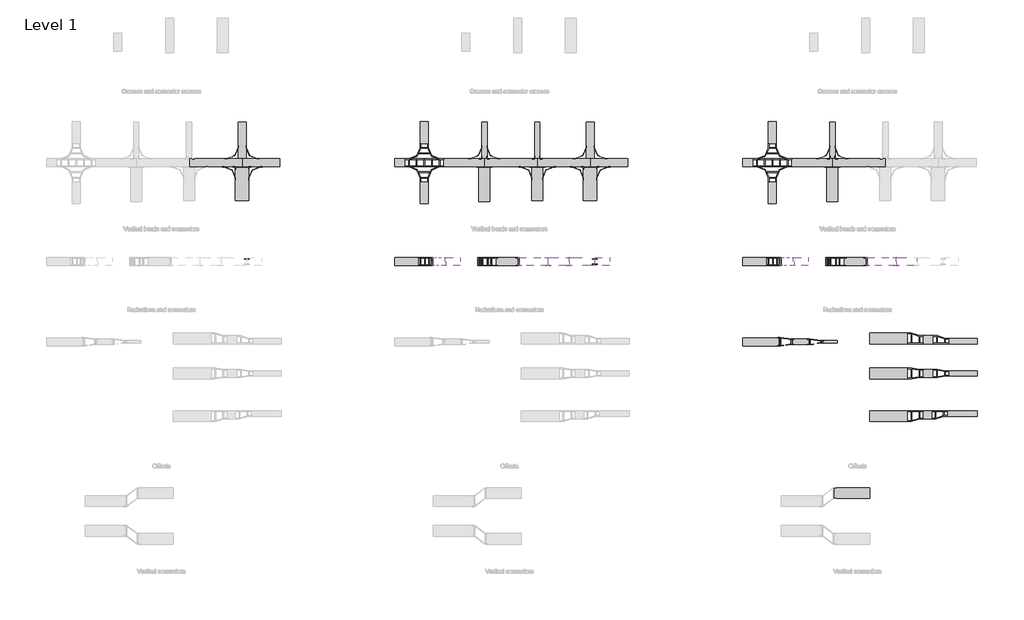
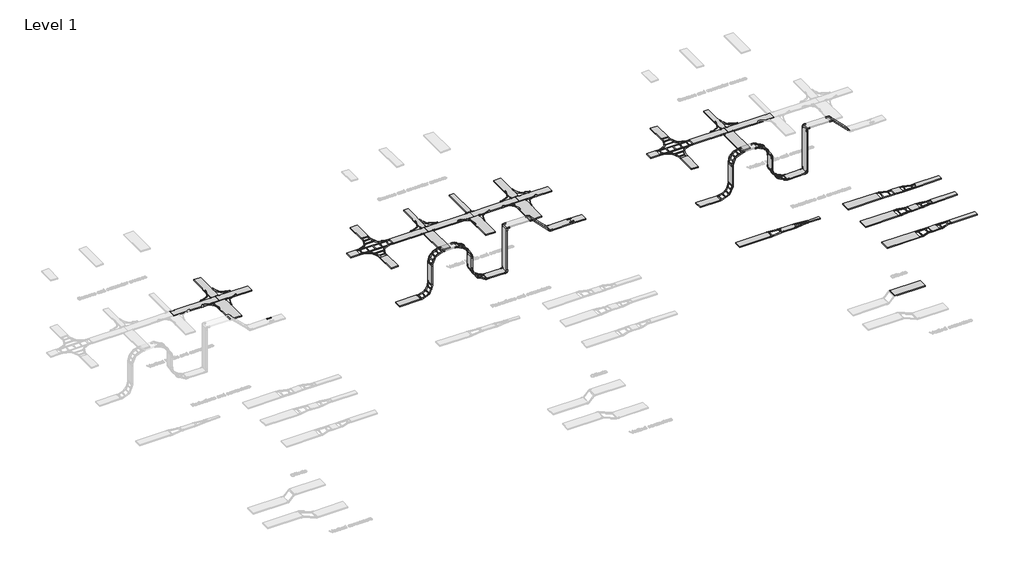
# One storey, part 10 of 106: 69 cable carrier fittings, 55 cable carrier segments.
"""IFC4 building model written with IfcOpenShell, lengths in millimetres."""

from ifc_helpers import new_model, si_unit, frame, origin, place, context, project, spatial, polyline, outline, extrude, transform, mapped, element, save
from components import cable_carrier_fitting_c78842c5, cable_carrier_fitting_c1e814a0, cable_carrier_fitting_2d894193, cable_carrier_fitting_655502a1, cable_carrier_fitting_0f11f104, cable_carrier_fitting_28cc8021, cable_carrier_fitting_3c98dc92, cable_carrier_fitting_6c66d9f1, cable_carrier_fitting_4c1293df, cable_carrier_fitting_edb32cbd, cable_carrier_fitting_a9217249, cable_carrier_fitting_c660702d, cable_carrier_fitting_92366696, cable_carrier_fitting_a2b46a04, cable_carrier_fitting_87479157, cable_carrier_fitting_b11fac2c, cable_carrier_fitting_d4fd6989, cable_carrier_fitting_33a5f9b6, cable_carrier_fitting_a79e1fa7, cable_carrier_fitting_c0237f39, cable_carrier_fitting_32c3d949, cable_carrier_fitting_d229e209, cable_carrier_fitting_202d3e5f, cable_carrier_fitting_3ee89383, cable_carrier_fitting_ec1c524e, cable_carrier_fitting_41da71e9, cable_carrier_fitting_dba92b4f, cable_carrier_fitting_45659740, cable_carrier_fitting_05152c93, cable_carrier_fitting_ca44e503

model = new_model("IFC4")

# Units and contexts
model_context = context("Model", 3, world=origin())
ifc_project = project(units=[si_unit("LENGTHUNIT", "METRE", prefix="MILLI")], contexts=[model_context])

# Site, building, storey
site = spatial("IfcSite", under=ifc_project)
building = spatial("IfcBuilding", under=site)
storey = spatial("IfcBuildingStorey", under=building, Name="Level 1", Elevation=0.0)

# Cable carrier fittings
placement = place(None, origin())
cable_carrier_fitting_shape = cable_carrier_fitting_c78842c5(model_context)
element("IfcCableCarrierFitting", 1, ObjectType="BAKS_LD_CONN_Straight connector_LDC : LDC_H45", at=placement, inside=storey, context=model_context, shape_type="MappedRepresentation", body=[
    mapped(cable_carrier_fitting_shape, transform((46084.5221787, 24506.9805429, 1239.8602102), x_axis=(1.0, 0.0, 0.0), y_axis=(0.0, 1.0, 0.0), z_axis=(0.0, 0.0, 1.0))),
])
cable_carrier_fitting_2_shape = cable_carrier_fitting_c1e814a0(model_context)
element("IfcCableCarrierFitting", 2, ObjectType="BAKS_LD_BEND_Articulated connector_LG : LGC_H45", at=placement, inside=storey, context=model_context, shape_type="MappedRepresentation", body=[
    mapped(cable_carrier_fitting_2_shape, transform((57264.3823889, 24756.9805429, 2000.0), x_axis=(1.0, 0.0, 0.0), y_axis=(0.0, 0.0, -1.0), z_axis=(0.0, 1.0, 0.0))),
])
cable_carrier_fitting_3_shape = cable_carrier_fitting_2d894193(model_context)
element("IfcCableCarrierFitting", 3, ObjectType="BAKS_LD_CONN_Angle coupler bendable_LKU : LKUP_H45", at=placement, inside=storey, context=model_context, shape_type="MappedRepresentation", body=[
    mapped(cable_carrier_fitting_3_shape, transform((32762.2849338, 28120.7686574, 32.5), x_axis=(1.0, 0.0, 0.0), y_axis=(0.0, 1.0, 0.0), z_axis=(0.0, 0.0, 1.0))),
])
element("IfcCableCarrierFitting", 4, ObjectType="BAKS_LD_CONN_Angle coupler bendable_LKU : LKUP_H45", at=placement, inside=storey, context=model_context, shape_type="MappedRepresentation", body=[
    mapped(cable_carrier_fitting_3_shape, transform((33262.2849338, 28120.7686574, 32.5), x_axis=(0.0, 1.0, 0.0), y_axis=(-1.0, 0.0, 0.0), z_axis=(0.0, 0.0, 1.0))),
])
element("IfcCableCarrierFitting", 5, ObjectType="BAKS_LD_CONN_Angle coupler bendable_LKU : LKUP_H45", at=placement, inside=storey, context=model_context, shape_type="MappedRepresentation", body=[
    mapped(cable_carrier_fitting_3_shape, transform((33162.2849338, 28420.7686574, 30.0), x_axis=(-1.0, 0.0, 0.0), y_axis=(0.0, -1.0, 0.0), z_axis=(0.0, 0.0, 1.0))),
])
element("IfcCableCarrierFitting", 6, ObjectType="BAKS_LD_CONN_Angle coupler bendable_LKU : LKUP_H45", at=placement, inside=storey, context=model_context, shape_type="MappedRepresentation", body=[
    mapped(cable_carrier_fitting_3_shape, transform((42089.2849338, 28420.7686574, 32.5), x_axis=(-1.0, 0.0, 0.0), y_axis=(0.0, -1.0, 0.0), z_axis=(0.0, 0.0, 1.0))),
])
element("IfcCableCarrierFitting", 7, ObjectType="BAKS_LD_CONN_Angle coupler bendable_LKU : LKUP_H45", at=placement, inside=storey, context=model_context, shape_type="MappedRepresentation", body=[
    mapped(cable_carrier_fitting_3_shape, transform((41889.2849338, 28420.7686574, 32.5), x_axis=(0.0, -1.0, 0.0), y_axis=(1.0, 0.0, 0.0), z_axis=(0.0, 0.0, 1.0))),
])
element("IfcCableCarrierFitting", 8, ObjectType="BAKS_LD_CONN_Angle coupler bendable_LKU : LKUP_H45", at=placement, inside=storey, context=model_context, shape_type="MappedRepresentation", body=[
    mapped(cable_carrier_fitting_3_shape, transform((41789.2849338, 28120.7686574, 30.0), x_axis=(1.0, 0.0, 0.0), y_axis=(0.0, 1.0, 0.0), z_axis=(0.0, 0.0, 1.0))),
])
element("IfcCableCarrierFitting", 9, ObjectType="BAKS_LD_CONN_Angle coupler bendable_LKU : LKUP_H45", at=placement, inside=storey, context=model_context, shape_type="MappedRepresentation", body=[
    mapped(cable_carrier_fitting_3_shape, transform((44050.9231102, 28420.7686574, 32.5), x_axis=(-1.0, 0.0, 0.0), y_axis=(0.0, -1.0, 0.0), z_axis=(0.0, 0.0, 1.0))),
])
element("IfcCableCarrierFitting", 10, ObjectType="BAKS_LD_CONN_Angle coupler bendable_LKU : LKUP_H45", at=placement, inside=storey, context=model_context, shape_type="MappedRepresentation", body=[
    mapped(cable_carrier_fitting_3_shape, transform((43850.9231102, 28420.7686574, 32.5), x_axis=(0.0, -1.0, 0.0), y_axis=(1.0, 0.0, 0.0), z_axis=(0.0, 0.0, 1.0))),
])
element("IfcCableCarrierFitting", 11, ObjectType="BAKS_LD_CONN_Angle coupler bendable_LKU : LKUP_H45", at=placement, inside=storey, context=model_context, shape_type="MappedRepresentation", body=[
    mapped(cable_carrier_fitting_3_shape, transform((43750.9231102, 28120.7686574, 30.0), x_axis=(1.0, 0.0, 0.0), y_axis=(0.0, 1.0, 0.0), z_axis=(0.0, 0.0, 1.0))),
])
element("IfcCableCarrierFitting", 12, ObjectType="BAKS_LD_CONN_Angle coupler bendable_LKU : LKUP_H45", at=placement, inside=storey, context=model_context, shape_type="MappedRepresentation", body=[
    mapped(cable_carrier_fitting_3_shape, transform((45662.2849338, 28120.7686574, 32.5), x_axis=(1.0, 0.0, 0.0), y_axis=(0.0, 1.0, 0.0), z_axis=(0.0, 0.0, 1.0))),
])
element("IfcCableCarrierFitting", 13, ObjectType="BAKS_LD_CONN_Angle coupler bendable_LKU : LKUP_H45", at=placement, inside=storey, context=model_context, shape_type="MappedRepresentation", body=[
    mapped(cable_carrier_fitting_3_shape, transform((46162.2849338, 28120.7686574, 32.5), x_axis=(0.0, 1.0, 0.0), y_axis=(-1.0, 0.0, 0.0), z_axis=(0.0, 0.0, 1.0))),
])
element("IfcCableCarrierFitting", 14, ObjectType="BAKS_LD_CONN_Angle coupler bendable_LKU : LKUP_H45", at=placement, inside=storey, context=model_context, shape_type="MappedRepresentation", body=[
    mapped(cable_carrier_fitting_3_shape, transform((46062.2849338, 28420.7686574, 30.0), x_axis=(-1.0, 0.0, 0.0), y_axis=(0.0, -1.0, 0.0), z_axis=(0.0, 0.0, 1.0))),
])
cable_carrier_fitting_4_shape = cable_carrier_fitting_655502a1(model_context)
element("IfcCableCarrierFitting", 15, ObjectType="BAKS_LD_CONN_Angle coupler bendable_LKU : LKUC_H45", at=placement, inside=storey, context=model_context, shape_type="MappedRepresentation", body=[
    mapped(cable_carrier_fitting_4_shape, transform((54989.2849338, 28420.7686574, 32.5), x_axis=(-1.0, 0.0, 0.0), y_axis=(0.0, -1.0, 0.0), z_axis=(0.0, 0.0, 1.0))),
])
element("IfcCableCarrierFitting", 16, ObjectType="BAKS_LD_CONN_Angle coupler bendable_LKU : LKUC_H45", at=placement, inside=storey, context=model_context, shape_type="MappedRepresentation", body=[
    mapped(cable_carrier_fitting_4_shape, transform((54789.2849338, 28420.7686574, 32.5), x_axis=(0.0, -1.0, 0.0), y_axis=(1.0, 0.0, 0.0), z_axis=(0.0, 0.0, 1.0))),
])
element("IfcCableCarrierFitting", 17, ObjectType="BAKS_LD_CONN_Angle coupler bendable_LKU : LKUC_H45", at=placement, inside=storey, context=model_context, shape_type="MappedRepresentation", body=[
    mapped(cable_carrier_fitting_4_shape, transform((54689.2849338, 28120.7686574, 30.0), x_axis=(1.0, 0.0, 0.0), y_axis=(0.0, 1.0, 0.0), z_axis=(0.0, 0.0, 1.0))),
])
cable_carrier_fitting_5_shape = cable_carrier_fitting_0f11f104(model_context)
element("IfcCableCarrierFitting", 18, ObjectType="BAKS_LD_CONN_Addon connector_LDDK : LDDKP", at=placement, inside=storey, context=model_context, shape_type="MappedRepresentation", body=[
    mapped(cable_carrier_fitting_5_shape, transform((32762.2849338, 28120.7686574, 55.0), x_axis=(1.0, 0.0, 0.0), y_axis=(0.0, 1.0, 0.0), z_axis=(0.0, 0.0, 1.0))),
])
element("IfcCableCarrierFitting", 19, ObjectType="BAKS_LD_CONN_Addon connector_LDDK : LDDKP", at=placement, inside=storey, context=model_context, shape_type="MappedRepresentation", body=[
    mapped(cable_carrier_fitting_5_shape, transform((33162.2849338, 28420.7686574, 55.0), x_axis=(-1.0, 0.0, 0.0), y_axis=(0.0, -1.0, 0.0), z_axis=(0.0, 0.0, 1.0))),
])
element("IfcCableCarrierFitting", 20, ObjectType="BAKS_LD_CONN_Addon connector_LDDK : LDDKP", at=placement, inside=storey, context=model_context, shape_type="MappedRepresentation", body=[
    mapped(cable_carrier_fitting_5_shape, transform((42089.2849338, 28420.7686574, 55.0), x_axis=(-1.0, 0.0, 0.0), y_axis=(0.0, -1.0, 0.0), z_axis=(0.0, 0.0, 1.0))),
])
element("IfcCableCarrierFitting", 21, ObjectType="BAKS_LD_CONN_Addon connector_LDDK : LDDKP", at=placement, inside=storey, context=model_context, shape_type="MappedRepresentation", body=[
    mapped(cable_carrier_fitting_5_shape, transform((43750.9231102, 28120.7686574, 55.0), x_axis=(1.0, 0.0, 0.0), y_axis=(0.0, 1.0, 0.0), z_axis=(0.0, 0.0, 1.0))),
])
element("IfcCableCarrierFitting", 22, ObjectType="BAKS_LD_CONN_Addon connector_LDDK : LDDKP", at=placement, inside=storey, context=model_context, shape_type="MappedRepresentation", body=[
    mapped(cable_carrier_fitting_5_shape, transform((45662.2849338, 28120.7686574, 55.0), x_axis=(1.0, 0.0, 0.0), y_axis=(0.0, 1.0, 0.0), z_axis=(0.0, 0.0, 1.0))),
])
element("IfcCableCarrierFitting", 23, ObjectType="BAKS_LD_CONN_Addon connector_LDDK : LDDKP", at=placement, inside=storey, context=model_context, shape_type="MappedRepresentation", body=[
    mapped(cable_carrier_fitting_5_shape, transform((46062.2849338, 28420.7686574, 55.0), x_axis=(-1.0, 0.0, 0.0), y_axis=(0.0, -1.0, 0.0), z_axis=(0.0, 0.0, 1.0))),
])
element("IfcCableCarrierFitting", 24, ObjectType="BAKS_LD_CONN_Addon connector_LDDK : LDDKP", at=placement, inside=storey, context=model_context, shape_type="MappedRepresentation", body=[
    mapped(cable_carrier_fitting_5_shape, transform((54989.2849338, 28420.7686574, 55.0), x_axis=(-1.0, 0.0, 0.0), y_axis=(0.0, -1.0, 0.0), z_axis=(0.0, 0.0, 1.0))),
])
cable_carrier_fitting_6_shape = cable_carrier_fitting_28cc8021(model_context)
element("IfcCableCarrierFitting", 25, ObjectType="BAKS_LD_RED_Straight reducer_RD : RD(S/L/P)C_H45", at=placement, inside=storey, context=model_context, shape_type="MappedRepresentation", body=[
    mapped(cable_carrier_fitting_6_shape, transform((57665.5222547, 20457.8476348, 55.0), x_axis=(1.0, 0.0, 0.0), y_axis=(0.0, 1.0, 0.0), z_axis=(0.0, 0.0, 1.0))),
])
cable_carrier_fitting_7_shape = cable_carrier_fitting_3c98dc92(model_context)
element("IfcCableCarrierFitting", 26, ObjectType="BAKS_LD_BEND_Vertical bend 90deg external_LPDZ : LPDZP_H45", at=placement, inside=storey, context=model_context, shape_type="MappedRepresentation", body=[
    mapped(cable_carrier_fitting_7_shape, transform((40064.3823889, 24606.9805429, 1900.0), x_axis=(0.0, 0.0, 1.0), y_axis=(1.0, 0.0, 0.0), z_axis=(0.0, 1.0, 0.0))),
])
cable_carrier_fitting_8_shape = cable_carrier_fitting_6c66d9f1(model_context)
element("IfcCableCarrierFitting", 27, ObjectType="BAKS_LD_BEND_Articulated connector_LG : LGT_H45", at=placement, inside=storey, context=model_context, shape_type="MappedRepresentation", body=[
    mapped(cable_carrier_fitting_8_shape, transform((43264.3823889, 24456.9805429, 0.0), x_axis=(1.0, 0.0, 0.0), y_axis=(0.0, 0.0, 1.0), z_axis=(0.0, -1.0, 0.0))),
])
element("IfcCableCarrierFitting", 28, ObjectType="BAKS_LD_BEND_Articulated connector_LG : LGT_H45", at=placement, inside=storey, context=model_context, shape_type="MappedRepresentation", body=[
    mapped(cable_carrier_fitting_8_shape, transform((43264.3823889, 24756.9805429, 2000.0), x_axis=(0.0, 0.0, 1.0), y_axis=(1.0, 0.0, 0.0), z_axis=(0.0, 1.0, 0.0))),
])
cable_carrier_fitting_9_shape = cable_carrier_fitting_4c1293df(model_context)
element("IfcCableCarrierFitting", 29, ObjectType="BAKS_LD_BEND_Articulated connector_LG : LGT_H45", at=placement, inside=storey, context=model_context, shape_type="MappedRepresentation", body=[
    mapped(cable_carrier_fitting_9_shape, transform((43264.3823889, 24756.9805429, 0.0), x_axis=(1.0, 0.0, 0.0), y_axis=(0.0, 0.0, -1.0), z_axis=(0.0, 1.0, 0.0))),
])
element("IfcCableCarrierFitting", 30, ObjectType="BAKS_LD_BEND_Articulated connector_LG : LGT_H45", at=placement, inside=storey, context=model_context, shape_type="MappedRepresentation", body=[
    mapped(cable_carrier_fitting_9_shape, transform((43264.3823889, 24456.9805429, 2000.0), x_axis=(0.0, 0.0, 1.0), y_axis=(-1.0, 0.0, 0.0), z_axis=(0.0, -1.0, 0.0))),
])
cable_carrier_fitting_10_shape = cable_carrier_fitting_edb32cbd(model_context)
element("IfcCableCarrierFitting", 31, ObjectType="BAKS_LD_CROSS_Horizontal cross over_CZD : CZDP_H45", at=placement, inside=storey, context=model_context, shape_type="MappedRepresentation", body=[
    mapped(cable_carrier_fitting_10_shape, transform((39764.7261828, 28270.7686574, 55.0), x_axis=(-1.0, 0.0, 0.0), y_axis=(0.0, -1.0, 0.0), z_axis=(0.0, 0.0, 1.0))),
])
cable_carrier_fitting_11_shape = cable_carrier_fitting_a9217249(model_context)
element("IfcCableCarrierFitting", 32, ObjectType="BAKS_LD_CONN_Addon connector_LDDK : LDDKP", at=placement, inside=storey, context=model_context, shape_type="MappedRepresentation", body=[
    mapped(cable_carrier_fitting_11_shape, transform((33262.2849338, 28120.7686574, 55.0), x_axis=(-1.0, 0.0, 0.0), y_axis=(0.0, -1.0, 0.0), z_axis=(0.0, 0.0, 1.0))),
])
element("IfcCableCarrierFitting", 33, ObjectType="BAKS_LD_CONN_Addon connector_LDDK : LDDKP", at=placement, inside=storey, context=model_context, shape_type="MappedRepresentation", body=[
    mapped(cable_carrier_fitting_11_shape, transform((32862.2849338, 28420.7686574, 55.0), x_axis=(1.0, 0.0, 0.0), y_axis=(0.0, 1.0, 0.0), z_axis=(0.0, 0.0, 1.0))),
])
element("IfcCableCarrierFitting", 34, ObjectType="BAKS_LD_CONN_Addon connector_LDDK : LDDKP", at=placement, inside=storey, context=model_context, shape_type="MappedRepresentation", body=[
    mapped(cable_carrier_fitting_11_shape, transform((41889.2849338, 28420.7686574, 55.0), x_axis=(1.0, 0.0, 0.0), y_axis=(0.0, 1.0, 0.0), z_axis=(0.0, 0.0, 1.0))),
])
element("IfcCableCarrierFitting", 35, ObjectType="BAKS_LD_CONN_Addon connector_LDDK : LDDKP", at=placement, inside=storey, context=model_context, shape_type="MappedRepresentation", body=[
    mapped(cable_carrier_fitting_11_shape, transform((44150.9231102, 28120.7686574, 55.0), x_axis=(-1.0, 0.0, 0.0), y_axis=(0.0, -1.0, 0.0), z_axis=(0.0, 0.0, 1.0))),
])
element("IfcCableCarrierFitting", 36, ObjectType="BAKS_LD_CONN_Addon connector_LDDK : LDDKP", at=placement, inside=storey, context=model_context, shape_type="MappedRepresentation", body=[
    mapped(cable_carrier_fitting_11_shape, transform((46162.2849338, 28120.7686574, 55.0), x_axis=(-1.0, 0.0, 0.0), y_axis=(0.0, -1.0, 0.0), z_axis=(0.0, 0.0, 1.0))),
])
element("IfcCableCarrierFitting", 37, ObjectType="BAKS_LD_CONN_Addon connector_LDDK : LDDKP", at=placement, inside=storey, context=model_context, shape_type="MappedRepresentation", body=[
    mapped(cable_carrier_fitting_11_shape, transform((45762.2849338, 28420.7686574, 55.0), x_axis=(1.0, 0.0, 0.0), y_axis=(0.0, 1.0, 0.0), z_axis=(0.0, 0.0, 1.0))),
])
element("IfcCableCarrierFitting", 38, ObjectType="BAKS_LD_CONN_Addon connector_LDDK : LDDKP", at=placement, inside=storey, context=model_context, shape_type="MappedRepresentation", body=[
    mapped(cable_carrier_fitting_11_shape, transform((54789.2849338, 28420.7686574, 55.0), x_axis=(1.0, 0.0, 0.0), y_axis=(0.0, 1.0, 0.0), z_axis=(0.0, 0.0, 1.0))),
])
cable_carrier_fitting_12_shape = cable_carrier_fitting_c660702d(model_context)
element("IfcCableCarrierFitting", 39, ObjectType="BAKS_LD_CONN_Angle coupler bendable_LKU : LKUP_H45", at=placement, inside=storey, context=model_context, shape_type="MappedRepresentation", body=[
    mapped(cable_carrier_fitting_12_shape, transform((32862.2849338, 28420.7686574, 30.0), x_axis=(1.0, 0.0, 0.0), y_axis=(0.0, 1.0, 0.0), z_axis=(0.0, 0.0, 1.0))),
])
element("IfcCableCarrierFitting", 40, ObjectType="BAKS_LD_CONN_Angle coupler bendable_LKU : LKUP_H45", at=placement, inside=storey, context=model_context, shape_type="MappedRepresentation", body=[
    mapped(cable_carrier_fitting_12_shape, transform((42189.2849338, 28120.7686574, 30.0), x_axis=(-1.0, 0.0, 0.0), y_axis=(0.0, -1.0, 0.0), z_axis=(0.0, 0.0, 1.0))),
])
element("IfcCableCarrierFitting", 41, ObjectType="BAKS_LD_CONN_Angle coupler bendable_LKU : LKUP_H45", at=placement, inside=storey, context=model_context, shape_type="MappedRepresentation", body=[
    mapped(cable_carrier_fitting_12_shape, transform((44150.9231102, 28120.7686574, 30.0), x_axis=(-1.0, 0.0, 0.0), y_axis=(0.0, -1.0, 0.0), z_axis=(0.0, 0.0, 1.0))),
])
element("IfcCableCarrierFitting", 42, ObjectType="BAKS_LD_CONN_Angle coupler bendable_LKU : LKUP_H45", at=placement, inside=storey, context=model_context, shape_type="MappedRepresentation", body=[
    mapped(cable_carrier_fitting_12_shape, transform((45762.2849338, 28420.7686574, 30.0), x_axis=(1.0, 0.0, 0.0), y_axis=(0.0, 1.0, 0.0), z_axis=(0.0, 0.0, 1.0))),
])
cable_carrier_fitting_13_shape = cable_carrier_fitting_92366696(model_context)
cable_carrier_fitting_14_shape = cable_carrier_fitting_a2b46a04(model_context)
element("IfcCableCarrierFitting", 43, ObjectType="BAKS_LD_BEND_Adjustable vertical bend_LPD : LPDP_H45", at=placement, inside=storey, context=model_context, shape_type="MappedRepresentation", body=[
    mapped(cable_carrier_fitting_13_shape, transform((41764.3823889, 24606.9805429, 1900.0), x_axis=(1.0, 0.0, 0.0), y_axis=(0.0, 0.0, -1.0), z_axis=(0.0, 1.0, 0.0))),
    mapped(cable_carrier_fitting_14_shape, transform((41764.3823889, 24606.9805429, 1900.0), x_axis=(1.0, 0.0, 0.0), y_axis=(0.0, 0.0, -1.0), z_axis=(0.0, 1.0, 0.0))),
])
element("IfcCableCarrierFitting", 44, ObjectType="BAKS_LD_BEND_Adjustable vertical bend_LPD : LPDP_H45", at=placement, inside=storey, context=model_context, shape_type="MappedRepresentation", body=[
    mapped(cable_carrier_fitting_13_shape, transform((41764.3823889, 24606.9805429, 0.0), x_axis=(0.0, 0.0, -1.0), y_axis=(1.0, 0.0, 0.0), z_axis=(0.0, -1.0, 0.0))),
    mapped(cable_carrier_fitting_14_shape, transform((41764.3823889, 24606.9805429, 0.0), x_axis=(0.0, 0.0, -1.0), y_axis=(1.0, 0.0, 0.0), z_axis=(0.0, -1.0, 0.0))),
])
cable_carrier_fitting_15_shape = cable_carrier_fitting_87479157(model_context)
element("IfcCableCarrierFitting", 45, ObjectType="BAKS_LD_BEND_Articulated connector_LG : LGT_H45", at=placement, inside=storey, context=model_context, shape_type="MappedRepresentation", body=[
    mapped(cable_carrier_fitting_15_shape, transform((44364.3823889, 24756.9805429, 2000.0), x_axis=(1.0, 0.0, 0.0), y_axis=(0.0, 0.0, -1.0), z_axis=(0.0, 1.0, 0.0))),
])
element("IfcCableCarrierFitting", 46, ObjectType="BAKS_LD_BEND_Articulated connector_LG : LGT_H45", at=placement, inside=storey, context=model_context, shape_type="MappedRepresentation", body=[
    mapped(cable_carrier_fitting_15_shape, transform((45124.5221787, 24456.9805429, 1239.8602102), x_axis=(0.7071067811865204, 0.0, -0.7071067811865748), y_axis=(0.7071067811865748, 0.0, 0.7071067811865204), z_axis=(0.0, -1.0, 0.0))),
])
cable_carrier_fitting_16_shape = cable_carrier_fitting_b11fac2c(model_context)
element("IfcCableCarrierFitting", 47, ObjectType="BAKS_LD_BEND_Articulated connector_LG : LGT_H45", at=placement, inside=storey, context=model_context, shape_type="MappedRepresentation", body=[
    mapped(cable_carrier_fitting_16_shape, transform((44364.3823889, 24456.9805429, 2000.0), x_axis=(1.0, 0.0, 0.0), y_axis=(0.0, 0.0, 1.0), z_axis=(0.0, -1.0, 0.0))),
])
element("IfcCableCarrierFitting", 48, ObjectType="BAKS_LD_BEND_Articulated connector_LG : LGT_H45", at=placement, inside=storey, context=model_context, shape_type="MappedRepresentation", body=[
    mapped(cable_carrier_fitting_16_shape, transform((45124.5221787, 24756.9805429, 1239.8602102), x_axis=(0.7071067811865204, 0.0, -0.7071067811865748), y_axis=(-0.7071067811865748, 0.0, -0.7071067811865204), z_axis=(0.0, 1.0, 0.0))),
])
element("IfcCableCarrierFitting", 49, ObjectType="BAKS_LD_BEND_Vertical bend 90deg internal_LPDW : LPDWP_H45", at=placement, inside=storey, context=model_context, shape_type="MappedRepresentation", body=[
    mapped(cable_carrier_fitting_7_shape, transform((40064.3823889, 24606.9805429, 55.0), x_axis=(1.0, 0.0, 0.0), y_axis=(0.0, 0.0, 1.0), z_axis=(0.0, -1.0, 0.0))),
])
element("IfcCableCarrierFitting", 50, ObjectType="BAKS_LD_CROSS_Horizontal cross over_CZD : CZDC_H45", at=placement, inside=storey, context=model_context, shape_type="MappedRepresentation", body=[
    mapped(cable_carrier_fitting_10_shape, transform((52664.7261828, 28270.7686574, 55.0), x_axis=(-1.0, 0.0, 0.0), y_axis=(0.0, -1.0, 0.0), z_axis=(0.0, 0.0, 1.0))),
])
cable_carrier_fitting_17_shape = cable_carrier_fitting_d4fd6989(model_context)
element("IfcCableCarrierFitting", 51, ObjectType="BAKS_LD_CONN_Angle coupler bendable_LKU : LKUC_H45", at=placement, inside=storey, context=model_context, shape_type="MappedRepresentation", body=[
    mapped(cable_carrier_fitting_17_shape, transform((55089.2849338, 28120.7686574, 30.0), x_axis=(-1.0, 0.0, 0.0), y_axis=(0.0, -1.0, 0.0), z_axis=(0.0, 0.0, 1.0))),
])
element("IfcCableCarrierFitting", 52, ObjectType="BAKS_LD_BEND_Vertical bend 90deg internal_LPDW : LPDWC_H45", at=placement, inside=storey, context=model_context, shape_type="MappedRepresentation", body=[
    mapped(cable_carrier_fitting_7_shape, transform((52964.3823889, 24606.9805429, 55.0), x_axis=(1.0, 0.0, 0.0), y_axis=(0.0, 0.0, 1.0), z_axis=(0.0, -1.0, 0.0))),
])
element("IfcCableCarrierFitting", 53, ObjectType="BAKS_LD_BEND_Vertical bend 90deg external_LPDZ : LPDZC_H45", at=placement, inside=storey, context=model_context, shape_type="MappedRepresentation", body=[
    mapped(cable_carrier_fitting_7_shape, transform((52964.3823889, 24606.9805429, 1900.0), x_axis=(0.0, 0.0, 1.0), y_axis=(1.0, 0.0, 0.0), z_axis=(0.0, 1.0, 0.0))),
])
cable_carrier_fitting_18_shape = cable_carrier_fitting_33a5f9b6(model_context)
cable_carrier_fitting_19_shape = cable_carrier_fitting_a79e1fa7(model_context)
element("IfcCableCarrierFitting", 54, ObjectType="BAKS_LD_BEND_Adjustable vertical bend_LPD : LPDC_H45", at=placement, inside=storey, context=model_context, shape_type="MappedRepresentation", body=[
    mapped(cable_carrier_fitting_18_shape, transform((54664.3823889, 24606.9805429, 1900.0), x_axis=(1.0, 0.0, 0.0), y_axis=(0.0, 0.0, -1.0), z_axis=(0.0, 1.0, 0.0))),
    mapped(cable_carrier_fitting_19_shape, transform((54664.3823889, 24606.9805429, 1900.0), x_axis=(1.0, 0.0, 0.0), y_axis=(0.0, 0.0, -1.0), z_axis=(0.0, 1.0, 0.0))),
])
element("IfcCableCarrierFitting", 55, ObjectType="BAKS_LD_BEND_Adjustable vertical bend_LPD : LPDC_H45", at=placement, inside=storey, context=model_context, shape_type="MappedRepresentation", body=[
    mapped(cable_carrier_fitting_18_shape, transform((54664.3823889, 24606.9805429, 0.0), x_axis=(0.0, 0.0, -1.0), y_axis=(1.0, 0.0, 0.0), z_axis=(0.0, -1.0, 0.0))),
    mapped(cable_carrier_fitting_19_shape, transform((54664.3823889, 24606.9805429, 0.0), x_axis=(0.0, 0.0, -1.0), y_axis=(1.0, 0.0, 0.0), z_axis=(0.0, -1.0, 0.0))),
])
cable_carrier_fitting_20_shape = cable_carrier_fitting_c0237f39(model_context)
element("IfcCableCarrierFitting", 56, ObjectType="BAKS_LD_BEND_Articulated connector_LG : LGC_H45", at=placement, inside=storey, context=model_context, shape_type="MappedRepresentation", body=[
    mapped(cable_carrier_fitting_20_shape, transform((56164.3823889, 24456.9805429, 0.0), x_axis=(1.0, 0.0, 0.0), y_axis=(0.0, 0.0, 1.0), z_axis=(0.0, -1.0, 0.0))),
])
element("IfcCableCarrierFitting", 57, ObjectType="BAKS_LD_BEND_Articulated connector_LG : LGC_H45", at=placement, inside=storey, context=model_context, shape_type="MappedRepresentation", body=[
    mapped(cable_carrier_fitting_20_shape, transform((56164.3823889, 24756.9805429, 2000.0), x_axis=(0.0, 0.0, 1.0), y_axis=(1.0, 0.0, 0.0), z_axis=(0.0, 1.0, 0.0))),
])
cable_carrier_fitting_21_shape = cable_carrier_fitting_32c3d949(model_context)
element("IfcCableCarrierFitting", 58, ObjectType="BAKS_LD_BEND_Articulated connector_LG : LGC_H45", at=placement, inside=storey, context=model_context, shape_type="MappedRepresentation", body=[
    mapped(cable_carrier_fitting_21_shape, transform((56164.3823889, 24756.9805429, 0.0), x_axis=(1.0, 0.0, 0.0), y_axis=(0.0, 0.0, -1.0), z_axis=(0.0, 1.0, 0.0))),
])
element("IfcCableCarrierFitting", 59, ObjectType="BAKS_LD_BEND_Articulated connector_LG : LGC_H45", at=placement, inside=storey, context=model_context, shape_type="MappedRepresentation", body=[
    mapped(cable_carrier_fitting_21_shape, transform((56164.3823889, 24456.9805429, 2000.0), x_axis=(0.0, 0.0, 1.0), y_axis=(-1.0, 0.0, 0.0), z_axis=(0.0, -1.0, 0.0))),
])
cable_carrier_fitting_22_shape = cable_carrier_fitting_d229e209(model_context)
element("IfcCableCarrierFitting", 60, ObjectType="BAKS_LD_BEND_Articulated connector_LG : LGC_H45", at=placement, inside=storey, context=model_context, shape_type="MappedRepresentation", body=[
    mapped(cable_carrier_fitting_22_shape, transform((57264.3823889, 24456.9805429, 2000.0), x_axis=(1.0, 0.0, 0.0), y_axis=(0.0, 0.0, 1.0), z_axis=(0.0, -1.0, 0.0))),
])
cable_carrier_fitting_23_shape = cable_carrier_fitting_202d3e5f(model_context)
element("IfcCableCarrierFitting", 61, ObjectType="BAKS_LD_CONN_Univarsal connector reduction_LLUS : LLUS_H45", at=placement, inside=storey, context=model_context, shape_type="MappedRepresentation", body=[
    mapped(cable_carrier_fitting_23_shape, transform((52864.3823889, 21631.6579459, 55.0), x_axis=(1.0, 0.0, 0.0), y_axis=(0.0, 1.0, 0.0), z_axis=(0.0, 0.0, 1.0))),
])
cable_carrier_fitting_24_shape = cable_carrier_fitting_3ee89383(model_context)
element("IfcCableCarrierFitting", 62, ObjectType="BAKS_LD_CONN_Univarsal connector reduction_LLUS : LLUS_H45", at=placement, inside=storey, context=model_context, shape_type="MappedRepresentation", body=[
    mapped(cable_carrier_fitting_24_shape, transform((53964.3823889, 21631.6579459, 55.0), x_axis=(1.0, 0.0, 0.0), y_axis=(0.0, 1.0, 0.0), z_axis=(0.0, 0.0, 1.0))),
])
cable_carrier_fitting_25_shape = cable_carrier_fitting_ec1c524e(model_context)
element("IfcCableCarrierFitting", 63, ObjectType="BAKS_LD_RED_Straight reducer_RD : RD(S/L/P)C_H45", at=placement, inside=storey, context=model_context, shape_type="MappedRepresentation", body=[
    mapped(cable_carrier_fitting_25_shape, transform((57665.5222547, 21757.8476348, 55.0), x_axis=(1.0, 0.0, 0.0), y_axis=(0.0, 1.0, 0.0), z_axis=(0.0, 0.0, 1.0))),
])
cable_carrier_fitting_26_shape = cable_carrier_fitting_41da71e9(model_context)
element("IfcCableCarrierFitting", 64, ObjectType="BAKS_LD_RED_Straight reducer_RD : RD(S/L/P)C_H45", at=placement, inside=storey, context=model_context, shape_type="MappedRepresentation", body=[
    mapped(cable_carrier_fitting_26_shape, transform((59216.5656993, 21657.8476348, 55.0), x_axis=(-1.0, 0.0, 0.0), y_axis=(0.0, -1.0, 0.0), z_axis=(0.0, 0.0, 1.0))),
])
cable_carrier_fitting_27_shape = cable_carrier_fitting_dba92b4f(model_context)
element("IfcCableCarrierFitting", 65, ObjectType="BAKS_LD_RED_Straight reducer_RD : RD(S/L/P)C_H45", at=placement, inside=storey, context=model_context, shape_type="MappedRepresentation", body=[
    mapped(cable_carrier_fitting_27_shape, transform((57665.5222547, 18871.6579459, 55.0), x_axis=(1.0, 0.0, 0.0), y_axis=(0.0, 1.0, 0.0), z_axis=(0.0, 0.0, 1.0))),
])
cable_carrier_fitting_28_shape = cable_carrier_fitting_45659740(model_context)
element("IfcCableCarrierFitting", 66, ObjectType="BAKS_LD_RED_Straight reducer_RD : RD(S/L/P)C_H45", at=placement, inside=storey, context=model_context, shape_type="MappedRepresentation", body=[
    mapped(cable_carrier_fitting_28_shape, transform((59165.5222547, 18971.6579459, 55.0), x_axis=(-1.0, 0.0, 0.0), y_axis=(0.0, -1.0, 0.0), z_axis=(0.0, 0.0, 1.0))),
])
cable_carrier_fitting_29_shape = cable_carrier_fitting_05152c93(model_context)
element("IfcCableCarrierFitting", 67, ObjectType="BAKS_LD_RED_Straight reducer_RD : RD(S/L/P)C_H45", at=placement, inside=storey, context=model_context, shape_type="MappedRepresentation", body=[
    mapped(cable_carrier_fitting_29_shape, transform((59216.5656993, 20457.8476348, 55.0), x_axis=(-1.0, 0.0, 0.0), y_axis=(0.0, -1.0, 0.0), z_axis=(0.0, 0.0, 1.0))),
])
cable_carrier_fitting_30_shape = cable_carrier_fitting_ca44e503(model_context)
element("IfcCableCarrierFitting", 68, ObjectType="BAKS_LD_CONN_Straight connector_LDC : LDC_H45", at=placement, inside=storey, context=model_context, shape_type="MappedRepresentation", body=[
    mapped(cable_carrier_fitting_30_shape, transform((33184.5221787, 24706.9805429, 1239.8602102), x_axis=(1.0, 0.0, 0.0), y_axis=(0.0, 1.0, 0.0), z_axis=(0.0, 0.0, 1.0))),
])
element("IfcCableCarrierFitting", 69, ObjectType="BAKS_LD_CONN_Straight connector_LDC : LDC_H45", at=placement, inside=storey, context=model_context, shape_type="MappedRepresentation", body=[
    mapped(cable_carrier_fitting_30_shape, transform((46084.5221787, 24706.9805429, 1239.8602102), x_axis=(1.0, 0.0, 0.0), y_axis=(0.0, 1.0, 0.0), z_axis=(0.0, 0.0, 1.0))),
])

# Cable carrier segments
element("IfcCableCarrierSegment", 70, ObjectType="BAKS - Ladder H45 (DUD)", at=placement, inside=storey, context=model_context, shape_type="SweptSolid", body=[
    extrude(outline(polyline([(31052.4231102, 28120.7686574), (31052.4231102, 28420.7686574), (33010.7849338, 28420.7686574), (33010.7849338, 28120.7686574), (31052.4231102, 28120.7686574)])), frame((0.0, 0.0, 32.5), z_axis=(0.0, 0.0, 1.0), x_axis=(1.0, 0.0, 0.0)), (0.0, 0.0, 1.0), 45.0),
])
element("IfcCableCarrierSegment", 71, ObjectType="BAKS - Ladder H45 (DUD)", at=placement, inside=storey, context=model_context, shape_type="SweptSolid", body=[
    extrude(outline(polyline([(33013.7849338, 28120.7686574), (33013.7849338, 28420.7686574), (34413.7849338, 28420.7686574), (34413.7849338, 28120.7686574), (33013.7849338, 28120.7686574)])), frame((0.0, 0.0, 32.5), z_axis=(0.0, 0.0, 1.0), x_axis=(1.0, 0.0, 0.0)), (0.0, 0.0, 1.0), 45.0),
])
element("IfcCableCarrierSegment", 72, ObjectType="BAKS - Ladder H45 (DUD)", at=placement, inside=storey, context=model_context, shape_type="SweptSolid", body=[
    extrude(outline(polyline([(33162.2849338, 28450.7686574), (32862.2849338, 28450.7686574), (32862.2849338, 29770.7686574), (33162.2849338, 29770.7686574), (33162.2849338, 28450.7686574)])), frame((0.0, 0.0, 32.5), z_axis=(0.0, 0.0, 1.0), x_axis=(1.0, 0.0, 0.0)), (0.0, 0.0, 1.0), 45.0),
])
element("IfcCableCarrierSegment", 73, ObjectType="BAKS - Ladder H45 (DUD)", at=placement, inside=storey, context=model_context, shape_type="SweptSolid", body=[
    extrude(outline(polyline([(32762.2849338, 28090.7686574), (33262.2849338, 28090.7686574), (33262.2849338, 26870.7686574), (32762.2849338, 26870.7686574), (32762.2849338, 28090.7686574)])), frame((0.0, 0.0, 32.5), z_axis=(0.0, 0.0, 1.0), x_axis=(1.0, 0.0, 0.0)), (0.0, 0.0, 1.0), 45.0),
])
element("IfcCableCarrierSegment", 74, ObjectType="BAKS - Ladder H45 (DUP)", at=placement, inside=storey, context=model_context, shape_type="SweptSolid", body=[
    extrude(outline(polyline([(43952.4231102, 28120.7686574), (43952.4231102, 28420.7686574), (45910.7849338, 28420.7686574), (45910.7849338, 28120.7686574), (43952.4231102, 28120.7686574)])), frame((0.0, 0.0, 32.5), z_axis=(0.0, 0.0, 1.0), x_axis=(1.0, 0.0, 0.0)), (0.0, 0.0, 1.0), 45.0),
])
element("IfcCableCarrierSegment", 75, ObjectType="BAKS - Ladder H45 (DUP)", at=placement, inside=storey, context=model_context, shape_type="SweptSolid", body=[
    extrude(outline(polyline([(38664.3823889, 28120.7686574), (38664.3823889, 28420.7686574), (39044.7261828, 28420.7686574), (39044.7261828, 28120.7686574), (38664.3823889, 28120.7686574)])), frame((0.0, 0.0, 32.5), z_axis=(0.0, 0.0, 1.0), x_axis=(1.0, 0.0, 0.0)), (0.0, 0.0, 1.0), 45.0),
])
element("IfcCableCarrierSegment", 76, ObjectType="BAKS - Ladder H45 (DUP)", at=placement, inside=storey, context=model_context, shape_type="SweptSolid", body=[
    extrude(outline(polyline([(40484.7261828, 28120.7686574), (40484.7261828, 28420.7686574), (41987.7849338, 28420.7686574), (41987.7849338, 28120.7686574), (40484.7261828, 28120.7686574)])), frame((0.0, 0.0, 32.5), z_axis=(0.0, 0.0, 1.0), x_axis=(1.0, 0.0, 0.0)), (0.0, 0.0, 1.0), 45.0),
])
element("IfcCableCarrierSegment", 77, ObjectType="BAKS - Ladder H45 (DUP)", at=placement, inside=storey, context=model_context, shape_type="SweptSolid", body=[
    extrude(outline(polyline([(41990.7849338, 28120.7686574), (41990.7849338, 28420.7686574), (43949.4231102, 28420.7686574), (43949.4231102, 28120.7686574), (41990.7849338, 28120.7686574)])), frame((0.0, 0.0, 32.5), z_axis=(0.0, 0.0, 1.0), x_axis=(1.0, 0.0, 0.0)), (0.0, 0.0, 1.0), 45.0),
])
element("IfcCableCarrierSegment", 78, ObjectType="BAKS - Ladder H45 (DUP)", at=placement, inside=storey, context=model_context, shape_type="SweptSolid", body=[
    extrude(outline(polyline([(39914.7261828, 28990.7686574), (39614.7261828, 28990.7686574), (39614.7261828, 29790.7686574), (39914.7261828, 29790.7686574), (39914.7261828, 28990.7686574)])), frame((0.0, 0.0, 32.5), z_axis=(0.0, 0.0, 1.0), x_axis=(1.0, 0.0, 0.0)), (0.0, 0.0, 1.0), 45.0),
])
element("IfcCableCarrierSegment", 79, ObjectType="BAKS - Ladder H45 (DUP)", at=placement, inside=storey, context=model_context, shape_type="SweptSolid", body=[
    extrude(outline(polyline([(39614.7261828, 27550.7686574), (39914.7261828, 27550.7686574), (39914.7261828, 26750.7686574), (39614.7261828, 26750.7686574), (39614.7261828, 27550.7686574)])), frame((0.0, 0.0, 32.5), z_axis=(0.0, 0.0, 1.0), x_axis=(1.0, 0.0, 0.0)), (0.0, 0.0, 1.0), 45.0),
])
element("IfcCableCarrierSegment", 80, ObjectType="BAKS - Ladder H45 (DUP)", at=placement, inside=storey, context=model_context, shape_type="SweptSolid", body=[
    extrude(outline(polyline([(42089.2849338, 28450.7686574), (41889.2849338, 28450.7686574), (41889.2849338, 29770.7686574), (42089.2849338, 29770.7686574), (42089.2849338, 28450.7686574)])), frame((0.0, 0.0, 32.5), z_axis=(0.0, 0.0, 1.0), x_axis=(1.0, 0.0, 0.0)), (0.0, 0.0, 1.0), 45.0),
])
element("IfcCableCarrierSegment", 81, ObjectType="BAKS - Ladder H45 (DUP)", at=placement, inside=storey, context=model_context, shape_type="SweptSolid", body=[
    extrude(outline(polyline([(41789.2849338, 28090.7686574), (42189.2849338, 28090.7686574), (42189.2849338, 26830.7686574), (41789.2849338, 26830.7686574), (41789.2849338, 28090.7686574)])), frame((0.0, 0.0, 32.5), z_axis=(0.0, 0.0, 1.0), x_axis=(1.0, 0.0, 0.0)), (0.0, 0.0, 1.0), 45.0),
])
element("IfcCableCarrierSegment", 82, ObjectType="BAKS - Ladder H45 (DUP)", at=placement, inside=storey, context=model_context, shape_type="SweptSolid", body=[
    extrude(outline(polyline([(44050.9231102, 28450.7686574), (43850.9231102, 28450.7686574), (43850.9231102, 29770.7686574), (44050.9231102, 29770.7686574), (44050.9231102, 28450.7686574)])), frame((0.0, 0.0, 32.5), z_axis=(0.0, 0.0, 1.0), x_axis=(1.0, 0.0, 0.0)), (0.0, 0.0, 1.0), 45.0),
])
element("IfcCableCarrierSegment", 83, ObjectType="BAKS - Ladder H45 (DUP)", at=placement, inside=storey, context=model_context, shape_type="SweptSolid", body=[
    extrude(outline(polyline([(43750.9231102, 28090.7686574), (44150.9231102, 28090.7686574), (44150.9231102, 26870.7686574), (43750.9231102, 26870.7686574), (43750.9231102, 28090.7686574)])), frame((0.0, 0.0, 32.5), z_axis=(0.0, 0.0, 1.0), x_axis=(1.0, 0.0, 0.0)), (0.0, 0.0, 1.0), 45.0),
])
element("IfcCableCarrierSegment", 84, ObjectType="BAKS - Ladder H45 (DUP)", at=placement, inside=storey, context=model_context, shape_type="SweptSolid", body=[
    extrude(outline(polyline([(45913.7849338, 28120.7686574), (45913.7849338, 28420.7686574), (47313.7849338, 28420.7686574), (47313.7849338, 28120.7686574), (45913.7849338, 28120.7686574)])), frame((0.0, 0.0, 32.5), z_axis=(0.0, 0.0, 1.0), x_axis=(1.0, 0.0, 0.0)), (0.0, 0.0, 1.0), 45.0),
])
element("IfcCableCarrierSegment", 85, ObjectType="BAKS - Ladder H45 (DUP)", at=placement, inside=storey, context=model_context, shape_type="SweptSolid", body=[
    extrude(outline(polyline([(46062.2849338, 28450.7686574), (45762.2849338, 28450.7686574), (45762.2849338, 29770.7686574), (46062.2849338, 29770.7686574), (46062.2849338, 28450.7686574)])), frame((0.0, 0.0, 32.5), z_axis=(0.0, 0.0, 1.0), x_axis=(1.0, 0.0, 0.0)), (0.0, 0.0, 1.0), 45.0),
])
element("IfcCableCarrierSegment", 86, ObjectType="BAKS - Ladder H45 (DUP)", at=placement, inside=storey, context=model_context, shape_type="SweptSolid", body=[
    extrude(outline(polyline([(45662.2849338, 28090.7686574), (46162.2849338, 28090.7686574), (46162.2849338, 26870.7686574), (45662.2849338, 26870.7686574), (45662.2849338, 28090.7686574)])), frame((0.0, 0.0, 32.5), z_axis=(0.0, 0.0, 1.0), x_axis=(1.0, 0.0, 0.0)), (0.0, 0.0, 1.0), 45.0),
])
element("IfcCableCarrierSegment", 87, ObjectType="BAKS - Ladder H45 (DUP)", at=placement, inside=storey, context=model_context, shape_type="SweptSolid", body=[
    extrude(outline(polyline([(38664.3823889, 24456.9805429), (38664.3823889, 24756.9805429), (39541.8823889, 24756.9805429), (39541.8823889, 24456.9805429), (38664.3823889, 24456.9805429)])), frame((0.0, 0.0, 32.5), z_axis=(0.0, 0.0, 1.0), x_axis=(1.0, 0.0, 0.0)), (0.0, 0.0, 1.0), 45.0),
])
element("IfcCableCarrierSegment", 88, ObjectType="BAKS - Ladder H45 (DUP)", at=placement, inside=storey, context=model_context, shape_type="SweptSolid", body=[
    extrude(outline(polyline([(40586.8823889, 24456.9805429), (40586.8823889, 24756.9805429), (41099.6709572, 24756.9805429), (41099.6709572, 24456.9805429), (40586.8823889, 24456.9805429)])), frame((0.0, 0.0, 1877.5), z_axis=(0.0, 0.0, 1.0), x_axis=(1.0, 0.0, 0.0)), (0.0, 0.0, 1.0), 45.0),
])
element("IfcCableCarrierSegment", 89, ObjectType="BAKS - Ladder H45 (DUP)", at=placement, inside=storey, context=model_context, shape_type="SweptSolid", body=[
    extrude(outline(polyline([(40041.8823889, 24756.9805429), (40086.8823889, 24756.9805429), (40086.8823889, 24456.9805429), (40041.8823889, 24456.9805429), (40041.8823889, 24756.9805429)])), frame((0.0, 0.0, 577.5), z_axis=(0.0, 0.0, 1.0), x_axis=(1.0, 0.0, 0.0)), (0.0, 0.0, 1.0), 800.0),
])
element("IfcCableCarrierSegment", 90, ObjectType="BAKS - Ladder H45 (DUP)", at=placement, inside=storey, context=model_context, shape_type="SweptSolid", body=[
    extrude(outline(polyline([(42429.0938206, 24456.9805429), (42429.0938206, 24756.9805429), (43239.3823889, 24756.9805429), (43239.3823889, 24456.9805429), (42429.0938206, 24456.9805429)])), frame((0.0, 0.0, -22.5), z_axis=(0.0, 0.0, 1.0), x_axis=(1.0, 0.0, 0.0)), (0.0, 0.0, 1.0), 45.0),
])
element("IfcCableCarrierSegment", 91, ObjectType="BAKS - Ladder H45 (DUP)", at=placement, inside=storey, context=model_context, shape_type="SweptSolid", body=[
    extrude(outline(polyline([(41786.8823889, 24756.9805429), (41786.8823889, 24456.9805429), (41741.8823889, 24456.9805429), (41741.8823889, 24756.9805429), (41786.8823889, 24756.9805429)])), frame((0.0, 0.0, 664.7114317), z_axis=(0.0, 0.0, 1.0), x_axis=(1.0, 0.0, 0.0)), (0.0, 0.0, 1.0), 570.5771366),
])
element("IfcCableCarrierSegment", 92, ObjectType="BAKS - Ladder H45 (DUP)", at=placement, inside=storey, context=model_context, shape_type="SweptSolid", body=[
    extrude(outline(polyline([(43289.3823889, 24456.9805429), (43289.3823889, 24756.9805429), (44339.3823889, 24756.9805429), (44339.3823889, 24456.9805429), (43289.3823889, 24456.9805429)])), frame((0.0, 0.0, 1977.5), z_axis=(0.0, 0.0, 1.0), x_axis=(1.0, 0.0, 0.0)), (0.0, 0.0, 1.0), 45.0),
])
element("IfcCableCarrierSegment", 93, ObjectType="BAKS - Ladder H45 (DUP)", at=placement, inside=storey, context=model_context, shape_type="SweptSolid", body=[
    extrude(outline(polyline([(43286.8823889, 24456.9805429), (43241.8823889, 24456.9805429), (43241.8823889, 24756.9805429), (43286.8823889, 24756.9805429), (43286.8823889, 24456.9805429)])), frame((0.0, 0.0, 25.0), z_axis=(0.0, 0.0, 1.0), x_axis=(1.0, 0.0, 0.0)), (0.0, 0.0, 1.0), 1950.0),
])
element("IfcCableCarrierSegment", 94, ObjectType="BAKS - Ladder H45 (DUP)", at=placement, inside=storey, context=model_context, shape_type="SweptSolid", body=[
    extrude(outline(polyline([(0.0, -300.0), (0.0, 0.0), (1025.0, 0.0), (1025.0, -300.0), (0.0, -300.0)])), frame((44366.1501559, 24756.9805429, 1966.4124279), z_axis=(0.7071067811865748, 0.0, 0.7071067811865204), x_axis=(0.7071067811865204, 0.0, -0.7071067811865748)), (0.0, 0.0, 1.0), 45.0),
])
element("IfcCableCarrierSegment", 95, ObjectType="BAKS - Ladder H45 (DUP)", at=placement, inside=storey, context=model_context, shape_type="SweptSolid", body=[
    extrude(outline(polyline([(46085.5221787, 24456.9805429), (46085.5221787, 24756.9805429), (46644.5221787, 24756.9805429), (46644.5221787, 24456.9805429), (46085.5221787, 24456.9805429)])), frame((0.0, 0.0, 1217.3602102), z_axis=(0.0, 0.0, 1.0), x_axis=(1.0, 0.0, 0.0)), (0.0, 0.0, 1.0), 45.0),
])
element("IfcCableCarrierSegment", 96, ObjectType="BAKS - Ladder H45 (DUP)", at=placement, inside=storey, context=model_context, shape_type="SweptSolid", body=[
    extrude(outline(polyline([(45149.5221787, 24456.9805429), (45149.5221787, 24756.9805429), (46084.5221787, 24756.9805429), (46084.5221787, 24456.9805429), (45149.5221787, 24456.9805429)])), frame((0.0, 0.0, 1217.3602102), z_axis=(0.0, 0.0, 1.0), x_axis=(1.0, 0.0, 0.0)), (0.0, 0.0, 1.0), 45.0),
])
element("IfcCableCarrierSegment", 97, ObjectType="BAKS - Ladder H45 (DUC)", at=placement, inside=storey, context=model_context, shape_type="SweptSolid", body=[
    extrude(outline(polyline([(51564.3823889, 28120.7686574), (51564.3823889, 28420.7686574), (51944.7261828, 28420.7686574), (51944.7261828, 28120.7686574), (51564.3823889, 28120.7686574)])), frame((0.0, 0.0, 32.5), z_axis=(0.0, 0.0, 1.0), x_axis=(1.0, 0.0, 0.0)), (0.0, 0.0, 1.0), 45.0),
])
element("IfcCableCarrierSegment", 98, ObjectType="BAKS - Ladder H45 (DUC)", at=placement, inside=storey, context=model_context, shape_type="SweptSolid", body=[
    extrude(outline(polyline([(53384.7261828, 28120.7686574), (53384.7261828, 28420.7686574), (54887.7849338, 28420.7686574), (54887.7849338, 28120.7686574), (53384.7261828, 28120.7686574)])), frame((0.0, 0.0, 32.5), z_axis=(0.0, 0.0, 1.0), x_axis=(1.0, 0.0, 0.0)), (0.0, 0.0, 1.0), 45.0),
])
element("IfcCableCarrierSegment", 99, ObjectType="BAKS - Ladder H45 (DUC)", at=placement, inside=storey, context=model_context, shape_type="SweptSolid", body=[
    extrude(outline(polyline([(54890.7849338, 28120.7686574), (54890.7849338, 28420.7686574), (56849.4231102, 28420.7686574), (56849.4231102, 28120.7686574), (54890.7849338, 28120.7686574)])), frame((0.0, 0.0, 32.5), z_axis=(0.0, 0.0, 1.0), x_axis=(1.0, 0.0, 0.0)), (0.0, 0.0, 1.0), 45.0),
])
element("IfcCableCarrierSegment", 100, ObjectType="BAKS - Ladder H45 (DUC)", at=placement, inside=storey, context=model_context, shape_type="SweptSolid", body=[
    extrude(outline(polyline([(52814.7261828, 28990.7686574), (52514.7261828, 28990.7686574), (52514.7261828, 29790.7686574), (52814.7261828, 29790.7686574), (52814.7261828, 28990.7686574)])), frame((0.0, 0.0, 32.5), z_axis=(0.0, 0.0, 1.0), x_axis=(1.0, 0.0, 0.0)), (0.0, 0.0, 1.0), 45.0),
])
element("IfcCableCarrierSegment", 101, ObjectType="BAKS - Ladder H45 (DUC)", at=placement, inside=storey, context=model_context, shape_type="SweptSolid", body=[
    extrude(outline(polyline([(52514.7261828, 27550.7686574), (52814.7261828, 27550.7686574), (52814.7261828, 26750.7686574), (52514.7261828, 26750.7686574), (52514.7261828, 27550.7686574)])), frame((0.0, 0.0, 32.5), z_axis=(0.0, 0.0, 1.0), x_axis=(1.0, 0.0, 0.0)), (0.0, 0.0, 1.0), 45.0),
])
element("IfcCableCarrierSegment", 102, ObjectType="BAKS - Ladder H45 (DUC)", at=placement, inside=storey, context=model_context, shape_type="SweptSolid", body=[
    extrude(outline(polyline([(54989.2849338, 28450.7686574), (54789.2849338, 28450.7686574), (54789.2849338, 29770.7686574), (54989.2849338, 29770.7686574), (54989.2849338, 28450.7686574)])), frame((0.0, 0.0, 32.5), z_axis=(0.0, 0.0, 1.0), x_axis=(1.0, 0.0, 0.0)), (0.0, 0.0, 1.0), 45.0),
])
element("IfcCableCarrierSegment", 103, ObjectType="BAKS - Ladder H45 (DUC)", at=placement, inside=storey, context=model_context, shape_type="SweptSolid", body=[
    extrude(outline(polyline([(54689.2849338, 28090.7686574), (55089.2849338, 28090.7686574), (55089.2849338, 26830.7686574), (54689.2849338, 26830.7686574), (54689.2849338, 28090.7686574)])), frame((0.0, 0.0, 32.5), z_axis=(0.0, 0.0, 1.0), x_axis=(1.0, 0.0, 0.0)), (0.0, 0.0, 1.0), 45.0),
])
element("IfcCableCarrierSegment", 104, ObjectType="BAKS - Ladder H45 (DUC)", at=placement, inside=storey, context=model_context, shape_type="SweptSolid", body=[
    extrude(outline(polyline([(51564.3823889, 24456.9805429), (51564.3823889, 24756.9805429), (52441.8823889, 24756.9805429), (52441.8823889, 24456.9805429), (51564.3823889, 24456.9805429)])), frame((0.0, 0.0, 32.5), z_axis=(0.0, 0.0, 1.0), x_axis=(1.0, 0.0, 0.0)), (0.0, 0.0, 1.0), 45.0),
])
element("IfcCableCarrierSegment", 105, ObjectType="BAKS - Ladder H45 (DUC)", at=placement, inside=storey, context=model_context, shape_type="SweptSolid", body=[
    extrude(outline(polyline([(53486.8823889, 24456.9805429), (53486.8823889, 24756.9805429), (53999.6709572, 24756.9805429), (53999.6709572, 24456.9805429), (53486.8823889, 24456.9805429)])), frame((0.0, 0.0, 1877.5), z_axis=(0.0, 0.0, 1.0), x_axis=(1.0, 0.0, 0.0)), (0.0, 0.0, 1.0), 45.0),
])
element("IfcCableCarrierSegment", 106, ObjectType="BAKS - Ladder H45 (DUC)", at=placement, inside=storey, context=model_context, shape_type="SweptSolid", body=[
    extrude(outline(polyline([(52986.8823889, 24456.9805429), (52941.8823889, 24456.9805429), (52941.8823889, 24756.9805429), (52986.8823889, 24756.9805429), (52986.8823889, 24456.9805429)])), frame((0.0, 0.0, 577.5), z_axis=(0.0, 0.0, 1.0), x_axis=(1.0, 0.0, 0.0)), (0.0, 0.0, 1.0), 800.0),
])
element("IfcCableCarrierSegment", 107, ObjectType="BAKS - Ladder H45 (DUC)", at=placement, inside=storey, context=model_context, shape_type="SweptSolid", body=[
    extrude(outline(polyline([(55329.0938206, 24456.9805429), (55329.0938206, 24756.9805429), (56139.3823889, 24756.9805429), (56139.3823889, 24456.9805429), (55329.0938206, 24456.9805429)])), frame((0.0, 0.0, -22.5), z_axis=(0.0, 0.0, 1.0), x_axis=(1.0, 0.0, 0.0)), (0.0, 0.0, 1.0), 45.0),
])
element("IfcCableCarrierSegment", 108, ObjectType="BAKS - Ladder H45 (DUC)", at=placement, inside=storey, context=model_context, shape_type="SweptSolid", body=[
    extrude(outline(polyline([(54686.8823889, 24756.9805429), (54686.8823889, 24456.9805429), (54641.8823889, 24456.9805429), (54641.8823889, 24756.9805429), (54686.8823889, 24756.9805429)])), frame((0.0, 0.0, 664.7114317), z_axis=(0.0, 0.0, 1.0), x_axis=(1.0, 0.0, 0.0)), (0.0, 0.0, 1.0), 570.5771366),
])
element("IfcCableCarrierSegment", 109, ObjectType="BAKS - Ladder H45 (DUC)", at=placement, inside=storey, context=model_context, shape_type="SweptSolid", body=[
    extrude(outline(polyline([(56189.3823889, 24456.9805429), (56189.3823889, 24756.9805429), (57239.3823889, 24756.9805429), (57239.3823889, 24456.9805429), (56189.3823889, 24456.9805429)])), frame((0.0, 0.0, 1977.5), z_axis=(0.0, 0.0, 1.0), x_axis=(1.0, 0.0, 0.0)), (0.0, 0.0, 1.0), 45.0),
])
element("IfcCableCarrierSegment", 110, ObjectType="BAKS - Ladder H45 (DUC)", at=placement, inside=storey, context=model_context, shape_type="SweptSolid", body=[
    extrude(outline(polyline([(56186.8823889, 24456.9805429), (56141.8823889, 24456.9805429), (56141.8823889, 24756.9805429), (56186.8823889, 24756.9805429), (56186.8823889, 24456.9805429)])), frame((0.0, 0.0, 25.0), z_axis=(0.0, 0.0, 1.0), x_axis=(1.0, 0.0, 0.0)), (0.0, 0.0, 1.0), 1950.0),
])
element("IfcCableCarrierSegment", 111, ObjectType="BAKS - Ladder H45 (DUC)", at=placement, inside=storey, context=model_context, shape_type="SweptSolid", body=[
    extrude(outline(polyline([(0.0, -300.0), (0.0, 0.0), (1025.0, 0.0), (1025.0, -300.0), (0.0, -300.0)])), frame((57266.1501559, 24756.9805429, 1966.4124279), z_axis=(0.7071067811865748, 0.0, 0.7071067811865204), x_axis=(0.7071067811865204, 0.0, -0.7071067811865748)), (0.0, 0.0, 1.0), 45.0),
])
element("IfcCableCarrierSegment", 112, ObjectType="BAKS - Ladder H45 (DUC)", at=placement, inside=storey, context=model_context, shape_type="SweptSolid", body=[
    extrude(outline(polyline([(51564.3823889, 21481.6579459), (51564.3823889, 21781.6579459), (52909.3823889, 21781.6579459), (52909.3823889, 21481.6579459), (51564.3823889, 21481.6579459)])), frame((0.0, 0.0, 32.5), z_axis=(0.0, 0.0, 1.0), x_axis=(1.0, 0.0, 0.0)), (0.0, 0.0, 1.0), 45.0),
])
element("IfcCableCarrierSegment", 113, ObjectType="BAKS - Ladder H45 (DUC)", at=placement, inside=storey, context=model_context, shape_type="SweptSolid", body=[
    extrude(outline(polyline([(53419.3823889, 21531.6579459), (53419.3823889, 21731.6579459), (54009.3823889, 21731.6579459), (54009.3823889, 21531.6579459), (53419.3823889, 21531.6579459)])), frame((0.0, 0.0, 32.5), z_axis=(0.0, 0.0, 1.0), x_axis=(1.0, 0.0, 0.0)), (0.0, 0.0, 1.0), 45.0),
])
element("IfcCableCarrierSegment", 114, ObjectType="BAKS - Ladder H45 (DUC)", at=placement, inside=storey, context=model_context, shape_type="SweptSolid", body=[
    extrude(outline(polyline([(54519.3823889, 21581.6579459), (54519.3823889, 21681.6579459), (55064.3823889, 21681.6579459), (55064.3823889, 21581.6579459), (54519.3823889, 21581.6579459)])), frame((0.0, 0.0, 32.5), z_axis=(0.0, 0.0, 1.0), x_axis=(1.0, 0.0, 0.0)), (0.0, 0.0, 1.0), 45.0),
])
element("IfcCableCarrierSegment", 115, ObjectType="BAKS - Ladder H45 (DUC)", at=placement, inside=storey, context=model_context, shape_type="SweptSolid", body=[
    extrude(outline(polyline([(58565.5222547, 19071.6579459), (58565.5222547, 18771.6579459), (58265.5222547, 18771.6579459), (58265.5222547, 19071.6579459), (58565.5222547, 19071.6579459)])), frame((0.0, 0.0, 32.5), z_axis=(0.0, 0.0, 1.0), x_axis=(1.0, 0.0, 0.0)), (0.0, 0.0, 1.0), 45.0),
])
element("IfcCableCarrierSegment", 116, ObjectType="BAKS - Ladder H45 (DUC)", at=placement, inside=storey, context=model_context, shape_type="SweptSolid", body=[
    extrude(outline(polyline([(56265.5222547, 18671.6579459), (56265.5222547, 19071.6579459), (57665.5222547, 19071.6579459), (57665.5222547, 18671.6579459), (56265.5222547, 18671.6579459)])), frame((0.0, 0.0, 32.5), z_axis=(0.0, 0.0, 1.0), x_axis=(1.0, 0.0, 0.0)), (0.0, 0.0, 1.0), 45.0),
])
element("IfcCableCarrierSegment", 117, ObjectType="BAKS - Ladder H45 (DUC)", at=placement, inside=storey, context=model_context, shape_type="SweptSolid", body=[
    extrude(outline(polyline([(60265.5222547, 19071.6579459), (60265.5222547, 18871.6579459), (59165.5222547, 18871.6579459), (59165.5222547, 19071.6579459), (60265.5222547, 19071.6579459)])), frame((0.0, 0.0, 32.5), z_axis=(0.0, 0.0, 1.0), x_axis=(1.0, 0.0, 0.0)), (0.0, 0.0, 1.0), 45.0),
])
element("IfcCableCarrierSegment", 118, ObjectType="BAKS - Ladder H45 (DUC)", at=placement, inside=storey, context=model_context, shape_type="SweptSolid", body=[
    extrude(outline(polyline([(58616.5656993, 21857.8476348), (58616.5656993, 21557.8476348), (58265.5222547, 21557.8476348), (58265.5222547, 21857.8476348), (58616.5656993, 21857.8476348)])), frame((0.0, 0.0, 32.5), z_axis=(0.0, 0.0, 1.0), x_axis=(1.0, 0.0, 0.0)), (0.0, 0.0, 1.0), 45.0),
])
element("IfcCableCarrierSegment", 119, ObjectType="BAKS - Ladder H45 (DUC)", at=placement, inside=storey, context=model_context, shape_type="SweptSolid", body=[
    extrude(outline(polyline([(56265.5222547, 21557.8476348), (56265.5222547, 21957.8476348), (57665.5222547, 21957.8476348), (57665.5222547, 21557.8476348), (56265.5222547, 21557.8476348)])), frame((0.0, 0.0, 32.5), z_axis=(0.0, 0.0, 1.0), x_axis=(1.0, 0.0, 0.0)), (0.0, 0.0, 1.0), 45.0),
])
element("IfcCableCarrierSegment", 120, ObjectType="BAKS - Ladder H45 (DUC)", at=placement, inside=storey, context=model_context, shape_type="SweptSolid", body=[
    extrude(outline(polyline([(59216.5656993, 21557.8476348), (59216.5656993, 21757.8476348), (60265.5222547, 21757.8476348), (60265.5222547, 21557.8476348), (59216.5656993, 21557.8476348)])), frame((0.0, 0.0, 32.5), z_axis=(0.0, 0.0, 1.0), x_axis=(1.0, 0.0, 0.0)), (0.0, 0.0, 1.0), 45.0),
])
element("IfcCableCarrierSegment", 121, ObjectType="BAKS - Ladder H45 (DUC)", at=placement, inside=storey, context=model_context, shape_type="SweptSolid", body=[
    extrude(outline(polyline([(58616.5656993, 20607.8476348), (58616.5656993, 20307.8476348), (58265.5222547, 20307.8476348), (58265.5222547, 20607.8476348), (58616.5656993, 20607.8476348)])), frame((0.0, 0.0, 32.5), z_axis=(0.0, 0.0, 1.0), x_axis=(1.0, 0.0, 0.0)), (0.0, 0.0, 1.0), 45.0),
])
element("IfcCableCarrierSegment", 122, ObjectType="BAKS - Ladder H45 (DUC)", at=placement, inside=storey, context=model_context, shape_type="SweptSolid", body=[
    extrude(outline(polyline([(60265.5222547, 20557.8476348), (60265.5222547, 20357.8476348), (59216.5656993, 20357.8476348), (59216.5656993, 20557.8476348), (60265.5222547, 20557.8476348)])), frame((0.0, 0.0, 32.5), z_axis=(0.0, 0.0, 1.0), x_axis=(1.0, 0.0, 0.0)), (0.0, 0.0, 1.0), 45.0),
])
element("IfcCableCarrierSegment", 123, ObjectType="BAKS - Ladder H45 (DUC)", at=placement, inside=storey, context=model_context, shape_type="SweptSolid", body=[
    extrude(outline(polyline([(56265.5222547, 20257.8476348), (56265.5222547, 20657.8476348), (57665.5222547, 20657.8476348), (57665.5222547, 20257.8476348), (56265.5222547, 20257.8476348)])), frame((0.0, 0.0, 32.5), z_axis=(0.0, 0.0, 1.0), x_axis=(1.0, 0.0, 0.0)), (0.0, 0.0, 1.0), 45.0),
])
element("IfcCableCarrierSegment", 124, ObjectType="BAKS - Ladder H45 (DUC)", at=placement, inside=storey, context=model_context, shape_type="SweptSolid", body=[
    extrude(outline(polyline([(54955.3508196, 15820.3591551), (54955.3508196, 16220.3591551), (56265.5222547, 16220.3591551), (56265.5222547, 15820.3591551), (54955.3508196, 15820.3591551)])), frame((0.0, 0.0, 32.5), z_axis=(0.0, 0.0, 1.0), x_axis=(1.0, 0.0, 0.0)), (0.0, 0.0, 1.0), 45.0),
])

save(model, "model.ifc")
